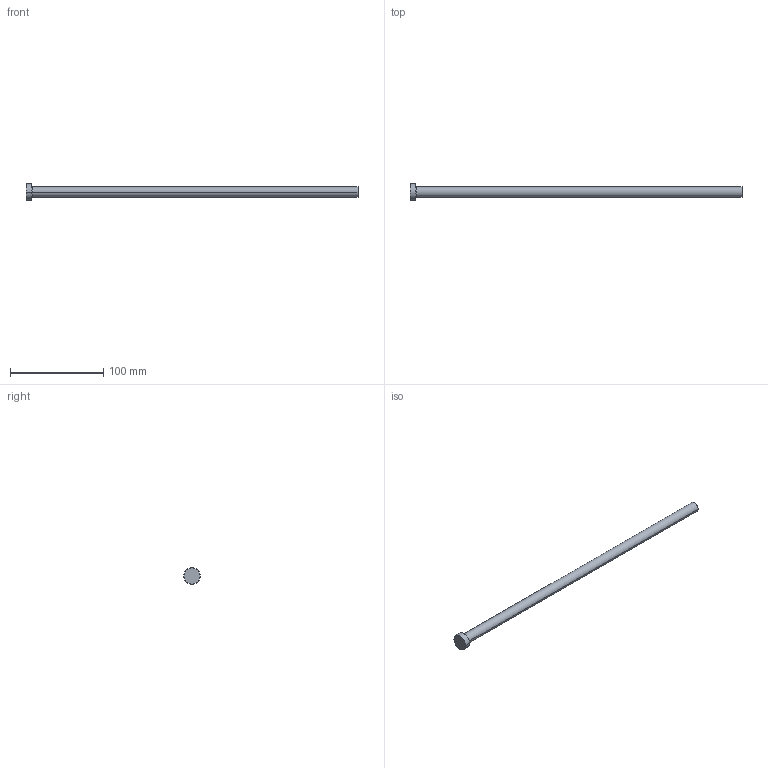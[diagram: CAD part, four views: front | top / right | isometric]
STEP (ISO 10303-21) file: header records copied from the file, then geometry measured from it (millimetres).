
FILE_DESCRIPTION (( 'STEP AP214' ), '1' );
FILE_NAME ('P29-14.STEP', '2020-03-12T10:27:55', ( '' ), ( '' ), 'SwSTEP 2.0', 'SolidWorks 2018', '' );
FILE_SCHEMA (( 'AUTOMOTIVE_DESIGN' ));
Length unit declared in the file: inch
Products named in the file (1): P29-14
Bounding box: 355.6 x 17.46 x 17.46 mm (x, y, z)
Volume: 35351 mm3; surface area: 12993.9 mm2
Topology: 1 solids, 1 shells, 13 faces, 24 edges, 14 vertices
Faces by surface type: cone 4, cylinder 4, plane 3, torus 2
Entity records: 366 total; most frequent: DIRECTION 68, CARTESIAN_POINT 52, ORIENTED_EDGE 48, AXIS2_PLACEMENT_3D 30, EDGE_CURVE 24, CIRCLE 16, VERTEX_POINT 14, EDGE_LOOP 14
